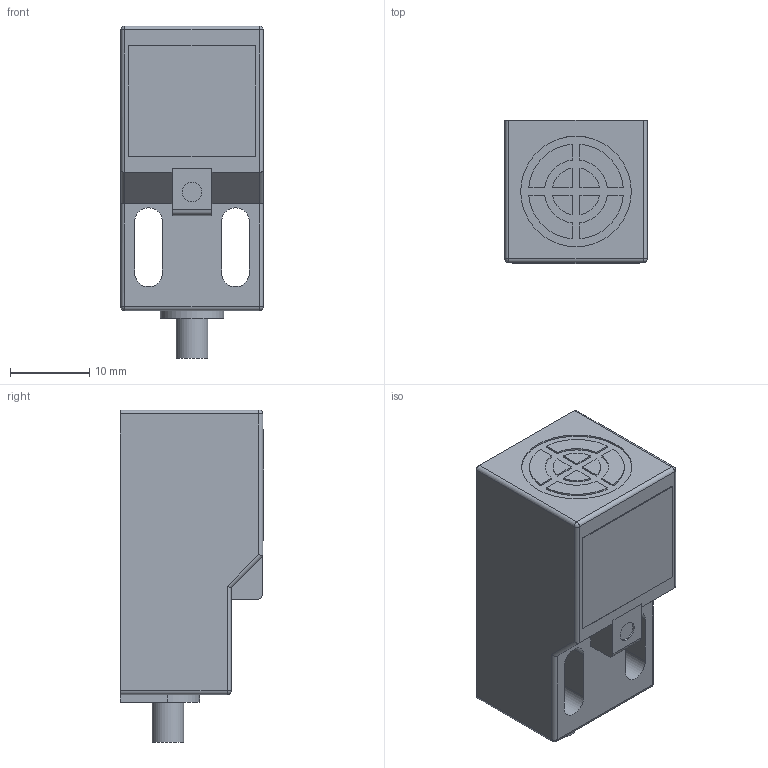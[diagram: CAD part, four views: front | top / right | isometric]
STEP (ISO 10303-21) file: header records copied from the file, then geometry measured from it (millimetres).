
FILE_DESCRIPTION(('STEP AP203'), '1');
FILE_NAME('SN04-N - 懾譈鴀', '', ('UNSPECIFIED'), ('UNSPECIFIED'), 'ASCON STEP Converter 1.3', 'ASCON Math Kernel', '');
FILE_SCHEMA(('CONFIG_CONTROL_DESIGN'));
Length unit declared in the file: millimetre
Products named in the file (1): SN04-N
Bounding box: 18 x 18.1 x 42 mm (x, y, z)
Volume: 9843.5 mm3; surface area: 3890.1 mm2
Topology: 2 solids, 2 shells, 95 faces, 223 edges, 140 vertices
Faces by surface type: plane 58, cylinder 33, sphere 4
Full cylindrical faces by diameter (mm): 2.5 x1, 4 x1, 14 x1
Entity records: 3470 total; most frequent: CARTESIAN_POINT 464, DIRECTION 462, ORIENTED_EDGE 432, EDGE_CURVE 216, AXIS2_PLACEMENT_3D 154, LINE 154, VECTOR 154, VERTEX_POINT 140
